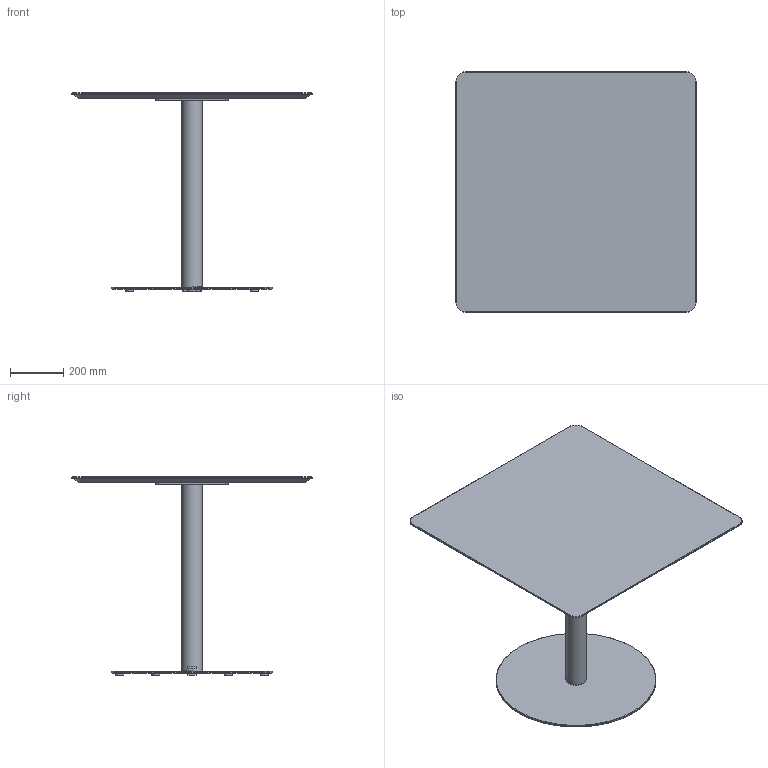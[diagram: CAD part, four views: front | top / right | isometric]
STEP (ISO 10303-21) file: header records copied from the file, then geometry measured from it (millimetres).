
FILE_DESCRIPTION( ('This file contains a STEP AP42 implementation' ,'as created by ZW3D STEP Interface translator.') ,'2;1' );
FILE_NAME( 'Henri - B_Rond - F3 - M5 - 900 x 900 x 750.stp' ,'24 912.154624', (''), ('ZWCAD Software Co.'), 'Version 1.0', 'ZW3D to STEP translator', '' );
FILE_SCHEMA(('AUTOMOTIVE_DESIGN { 1 0 10303 214 1 1 1 1 }'));
Length unit declared in the file: millimetre
Products named in the file (14): 0; PIED BISTROT PARAMETRIQUE_; COLONNE ACIER Ø76 V.02_; TUB-D076-02_; PLA-R76B-01_; CROIX ACIER 370 V.02_; CRX-X370-02_; SOCLE ACIER C Ø600 V.02_; SCL-D600-02_; PLA-R30A-01_; PLA-R30A-01; WUERTH 0276063020 Euro-screw 6.3x2 Verzinkt_; PLATEAU BISTROT PARAMETRIQUE_; insert_m6_13_
Assembly tree (24 placements, depth 3):
  0
  PIED BISTROT PARAMETRIQUE_
    COLONNE ACIER Ø76 V.02_
      TUB-D076-02_
      PLA-R76B-01_  x2
    CROIX ACIER 370 V.02_
      CRX-X370-02_
    SOCLE ACIER C Ø600 V.02_
      SCL-D600-02_
      PLA-R30A-01_
      PLA-R30A-01  x5
    WUERTH 0276063020 Euro-screw 6.3x2 Verzinkt_
    PLATEAU BISTROT PARAMETRIQUE_
      insert_m6_13_  x8
Bounding box: 900 x 900 x 744 mm (x, y, z)
Volume: 18706723.1 mm3; surface area: 2751461.4 mm2
Topology: 21 solids, 21 shells, 524 faces, 1273 edges, 802 vertices
Faces by surface type: plane 254, bspline 121, cylinder 99, cone 49, torus 1
Full cylindrical faces by diameter (mm): 4.88 x1, 6 x8, 6.3 x1, 8 x47, 12 x2, 14 x2, 30 x6, 72 x1, 76 x1, 600 x1
Entity records: 11734 total; most frequent: CARTESIAN_POINT 3302, ORIENTED_EDGE 1526, DIRECTION 1424, EDGE_CURVE 763, VERTEX_POINT 490, VECTOR 476, LINE 476, AXIS2_PLACEMENT_3D 474
